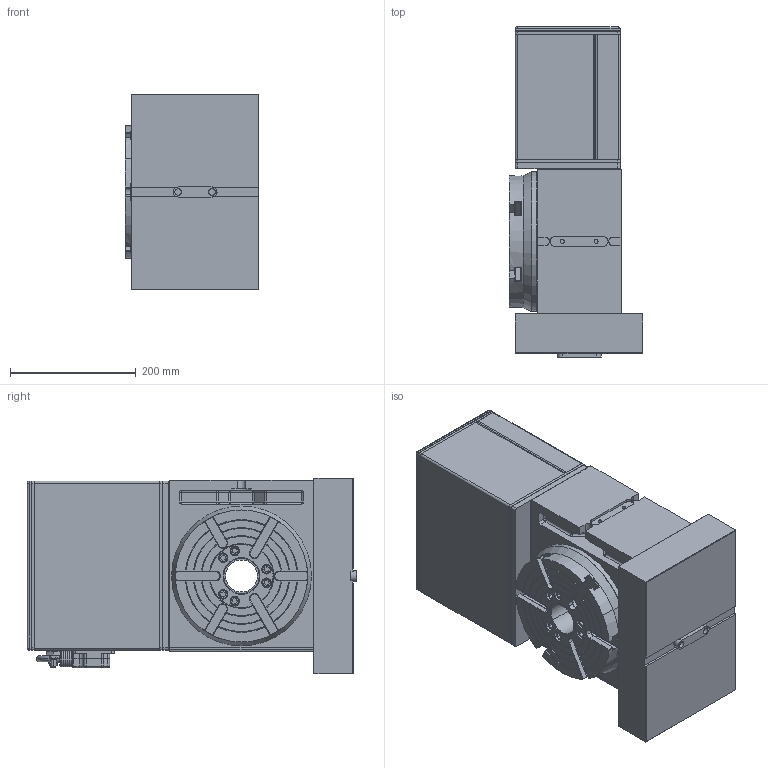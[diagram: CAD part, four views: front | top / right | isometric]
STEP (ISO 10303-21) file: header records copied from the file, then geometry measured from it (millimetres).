
FILE_DESCRIPTION (( 'STEP AP214' ), '1' );
FILE_NAME ('HRT210M_STEP_10-2019.STEP', '2019-10-03T21:35:04', ( '' ), ( '' ), 'SwSTEP 2.0', 'SolidWorks 2019', '' );
FILE_SCHEMA (( 'AUTOMOTIVE_DESIGN' ));
Length unit declared in the file: inch
Products named in the file (6): Group1^10000121928_defeature; 10000119073-1^10000121928_defeature; 10000122516-1^10000121928_defeature; 10000121906-1^10000121928_defeature; 10000122515-1^10000121928_defeature; HRT210M_STEP_10-2019
Assembly tree (5 placements, depth 2):
  HRT210M_STEP_10-2019
    Group1^10000121928_defeature
    10000119073-1^10000121928_defeature
    10000121906-1^10000121928_defeature
    10000122515-1^10000121928_defeature
    10000122516-1^10000121928_defeature
Bounding box: 212.99 x 524.41 x 311.15 mm (x, y, z)
Volume: 15546678.1 mm3; surface area: 1240878.8 mm2
Topology: 5 solids, 5 shells, 1935 faces, 4927 edges, 3088 vertices
Faces by surface type: cylinder 704, plane 603, sphere 348, cone 197, torus 83
Entity records: 70862 total; most frequent: CARTESIAN_POINT 13838, DIRECTION 10398, ORIENTED_EDGE 9814, EDGE_CURVE 4907, AXIS2_PLACEMENT_3D 4130, VERTEX_POINT 3088, CIRCLE 2187, LINE 2138
